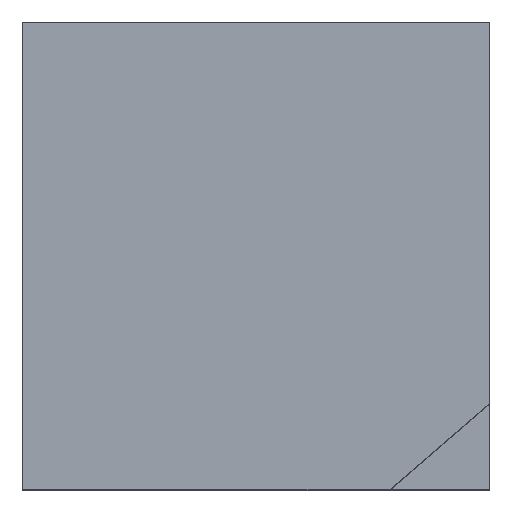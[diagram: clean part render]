
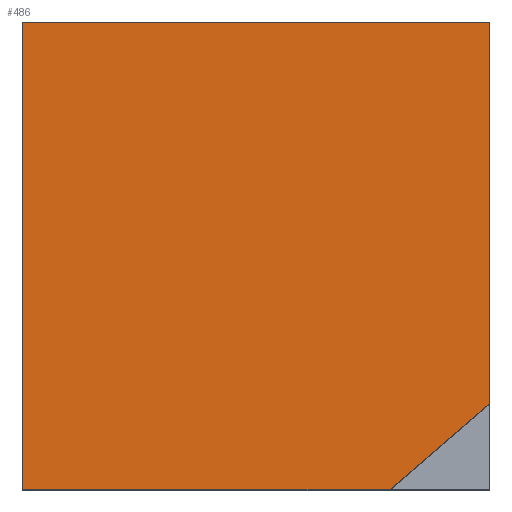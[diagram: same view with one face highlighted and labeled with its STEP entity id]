
A CAD part, top view. The second image highlights one B-rep face of the part: STEP entity #486.
In plain terms, the highlighted planar face has unit normal (0, 0, 1).
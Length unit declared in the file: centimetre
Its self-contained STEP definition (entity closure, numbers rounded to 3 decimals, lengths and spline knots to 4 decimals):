
#1 = EDGE_CURVE ( 'NONE', #170, #341, #49, .T. ) ;
#11 = VECTOR ( 'NONE', #365, 100. ) ;
#41 = VERTEX_POINT ( 'NONE', #398 ) ;
#43 = CARTESIAN_POINT ( 'NONE',  ( 1000., 1000., 1000. ) ) ;
#49 = LINE ( 'NONE', #43, #505 ) ;
#66 = DIRECTION ( 'NONE',  ( -1., 0., 0. ) ) ;
#106 = CARTESIAN_POINT ( 'NONE',  ( 0., 1000., 1000. ) ) ;
#119 = EDGE_CURVE ( 'NONE', #268, #344, #208, .T. ) ;
#121 = ORIENTED_EDGE ( 'NONE', *, *, #492, .T. ) ;
#130 = DIRECTION ( 'NONE',  ( 0., 1., 0. ) ) ;
#137 = CARTESIAN_POINT ( 'NONE',  ( 0., 0., 1000. ) ) ;
#145 = DIRECTION ( 'NONE',  ( 0., 0., 1. ) ) ;
#146 = CARTESIAN_POINT ( 'NONE',  ( 787.1907, 0., 1000. ) ) ;
#164 = EDGE_LOOP ( 'NONE', ( #497, #465, #121, #392, #470 ) ) ;
#170 = VERTEX_POINT ( 'NONE', #477 ) ;
#172 = CARTESIAN_POINT ( 'NONE',  ( 0., 1000., 1000. ) ) ;
#187 = CARTESIAN_POINT ( 'NONE',  ( 0., 0., 1000. ) ) ;
#189 = EDGE_CURVE ( 'NONE', #41, #268, #292, .T. ) ;
#204 = VECTOR ( 'NONE', #443, 100. ) ;
#208 = LINE ( 'NONE', #137, #11 ) ;
#216 = VECTOR ( 'NONE', #254, 100. ) ;
#220 = CARTESIAN_POINT ( 'NONE',  ( 1000., 183.3883, 1000. ) ) ;
#254 = DIRECTION ( 'NONE',  ( 0., -1., 0. ) ) ;
#262 = FACE_OUTER_BOUND ( 'NONE', #164, .T. ) ;
#268 = VERTEX_POINT ( 'NONE', #300 ) ;
#292 = LINE ( 'NONE', #172, #216 ) ;
#295 = VECTOR ( 'NONE', #66, 100. ) ;
#300 = CARTESIAN_POINT ( 'NONE',  ( 0., 0., 1000. ) ) ;
#337 = CARTESIAN_POINT ( 'NONE',  ( 1000., 1000., 1000. ) ) ;
#341 = VERTEX_POINT ( 'NONE', #337 ) ;
#343 = DIRECTION ( 'NONE',  ( 1., 0., 0. ) ) ;
#344 = VERTEX_POINT ( 'NONE', #146 ) ;
#365 = DIRECTION ( 'NONE',  ( 1., 0., 0. ) ) ;
#392 = ORIENTED_EDGE ( 'NONE', *, *, #189, .T. ) ;
#398 = CARTESIAN_POINT ( 'NONE',  ( 0., 1000., 1000. ) ) ;
#417 = EDGE_CURVE ( 'NONE', #170, #344, #490, .T. ) ;
#443 = DIRECTION ( 'NONE',  ( -0.758, -0.653, 0. ) ) ;
#456 = LINE ( 'NONE', #106, #295 ) ;
#460 = PLANE ( 'NONE',  #489 ) ;
#465 = ORIENTED_EDGE ( 'NONE', *, *, #1, .T. ) ;
#470 = ORIENTED_EDGE ( 'NONE', *, *, #119, .T. ) ;
#477 = CARTESIAN_POINT ( 'NONE',  ( 1000., 183.3883, 1000. ) ) ;
#486 = ADVANCED_FACE ( 'NONE', ( #262 ), #460, .T. ) ;
#489 = AXIS2_PLACEMENT_3D ( 'NONE', #187, #145, #343 ) ;
#490 = LINE ( 'NONE', #220, #204 ) ;
#492 = EDGE_CURVE ( 'NONE', #341, #41, #456, .T. ) ;
#497 = ORIENTED_EDGE ( 'NONE', *, *, #417, .F. ) ;
#505 = VECTOR ( 'NONE', #130, 100. ) ;
